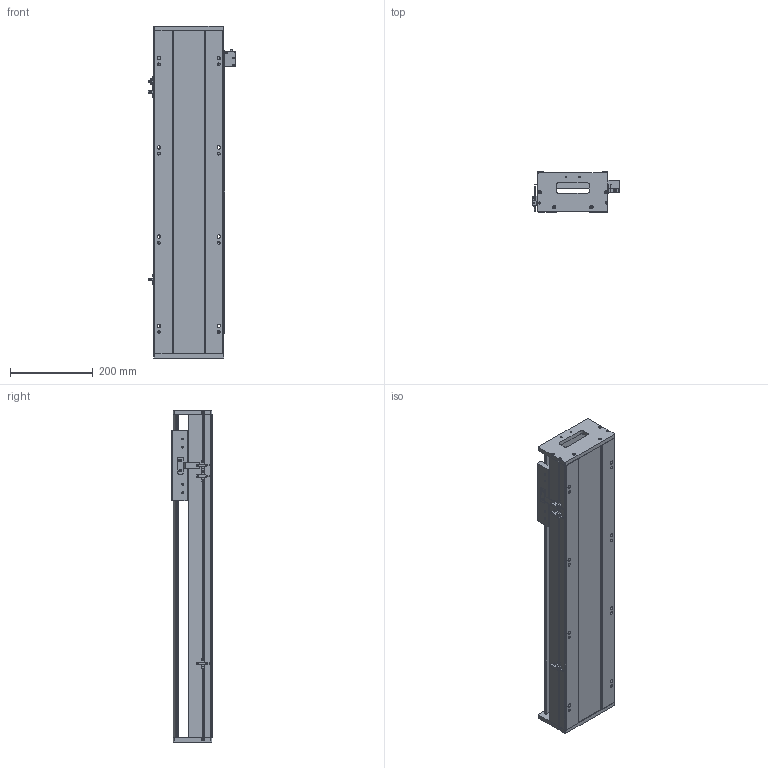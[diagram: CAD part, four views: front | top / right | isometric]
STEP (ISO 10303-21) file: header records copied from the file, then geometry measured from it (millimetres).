
FILE_DESCRIPTION (( 'STEP AP203' ), '1' );
FILE_NAME ('SKR17S-C1-S534（简）.STEP', '2022-09-29T02:51:57', ( '' ), ( '' ), 'SwSTEP 2.0', 'SolidWorks 2018', '' );
FILE_SCHEMA (( 'CONFIG_CONTROL_DESIGN' ));
Length unit declared in the file: millimetre
Products named in the file (8): SKR17滑台-170L（简）; SIKO棠掑; EE-SX672; SKR17耜啣; SKR17S-C1-S534（简）; 感应片（SKR12S-14S-17S）; 棠掑假蚾輸; SKR17菁釱-C1-S534(潠)
Assembly tree (10 placements, depth 2):
  SKR17S-C1-S534（简）
    SKR17菁釱-C1-S534(潠)
    SKR17滑台-170L（简）
    SIKO棠掑
    EE-SX672  x3
    SKR17耜啣  x2
    棠掑假蚾輸
    感应片（SKR12S-14S-17S）
Bounding box: 212.7 x 97 x 804 mm (x, y, z)
Volume: 6600698 mm3; surface area: 868689 mm2
Topology: 11 solids, 11 shells, 993 faces, 2728 edges, 1757 vertices
Faces by surface type: cylinder 446, plane 439, cone 108
Entity records: 29062 total; most frequent: CARTESIAN_POINT 7097, ORIENTED_EDGE 4500, DIRECTION 4320, EDGE_CURVE 2250, AXIS2_PLACEMENT_3D 1532, VERTEX_POINT 1461, VECTOR 1256, LINE 1256
